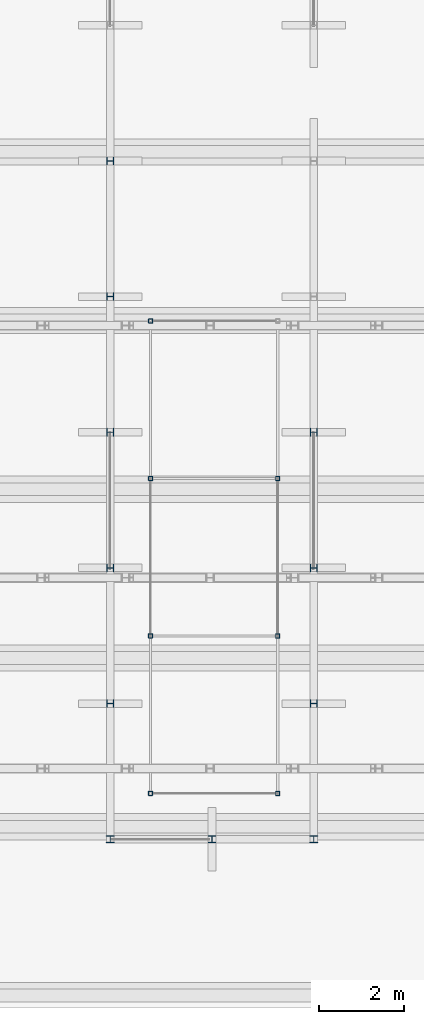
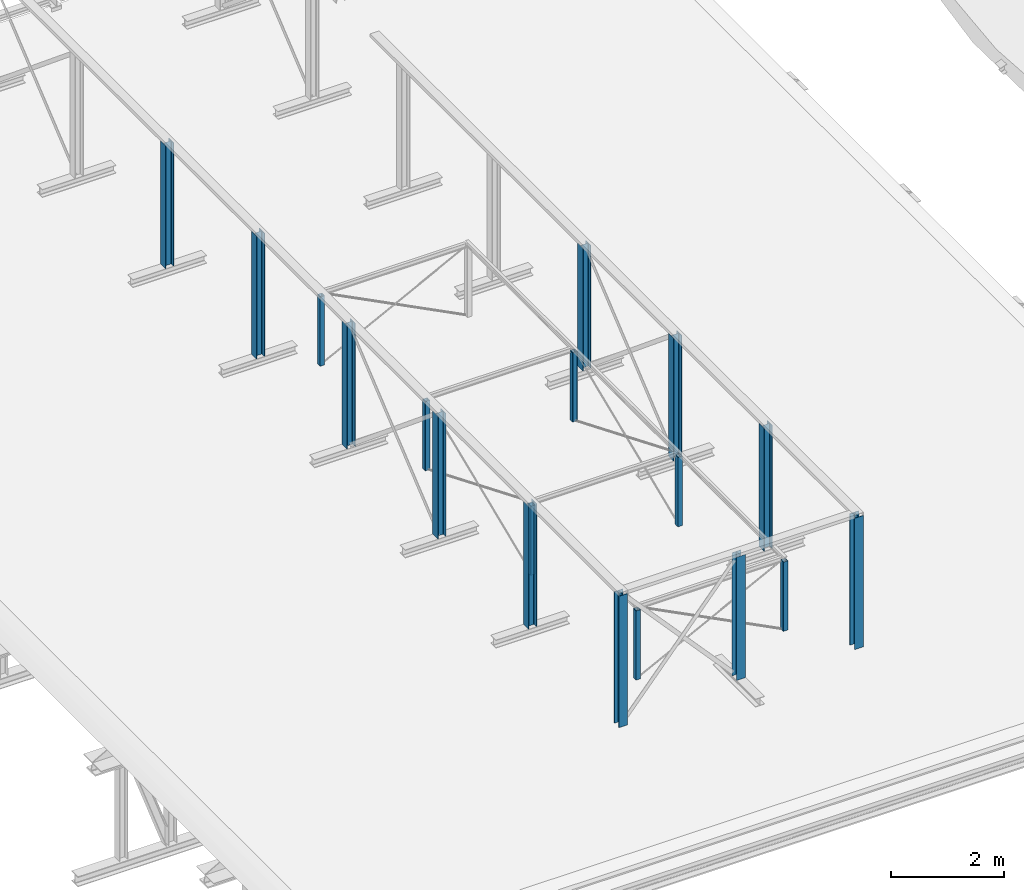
# One storey, part 1 of 50: 18 columns.
"""IFC2X3 building model written with IfcOpenShell, lengths in millimetres."""

from ifc_helpers import new_model, entity, si_unit, converted_unit, derived_unit, direction, frame, frame_2d, origin, place, context, subcontext, project, spatial, polyline, circle_curve, parameter, trimmed, segment, composite_curve, outline, extrude, source, transform, mapped, material, type_object, type_shapes, element, save


model = new_model("IFC2X3")

# Units and contexts
model_context = context("Model", 3, precision=0.01, world=origin(), true_north=direction((6.12303176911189e-17, 1.0)))
body_context = subcontext(model_context, "Body", "Model", "MODEL_VIEW")
ifc_project = project(units=[si_unit("LENGTHUNIT", "METRE", prefix="MILLI"), si_unit("AREAUNIT", "SQUARE_METRE", prefix="MILLI"), si_unit("VOLUMEUNIT", "CUBIC_METRE"), converted_unit("PLANEANGLEUNIT", "DEGREE", entity("IfcRatioMeasure", 0.0174532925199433), si_unit("PLANEANGLEUNIT", "RADIAN"), dimensions=[0, 0, 0, 0, 0, 0, 0]), si_unit("MASSUNIT", "GRAM", prefix="KILO"), derived_unit("MASSDENSITYUNIT", [(si_unit("MASSUNIT", "GRAM", prefix="KILO"), 1), (si_unit("LENGTHUNIT", "METRE"), -3)]), derived_unit("MOMENTOFINERTIAUNIT", [(si_unit("LENGTHUNIT", "METRE"), 4)]), si_unit("TIMEUNIT", "SECOND"), si_unit("FREQUENCYUNIT", "HERTZ"), si_unit("THERMODYNAMICTEMPERATUREUNIT", "DEGREE_CELSIUS"), derived_unit("THERMALTRANSMITTANCEUNIT", [(si_unit("MASSUNIT", "GRAM", prefix="KILO"), 1), (si_unit("THERMODYNAMICTEMPERATUREUNIT", "KELVIN"), -1), (si_unit("TIMEUNIT", "SECOND"), -3)]), derived_unit("VOLUMETRICFLOWRATEUNIT", [(si_unit("LENGTHUNIT", "METRE"), 3), (si_unit("TIMEUNIT", "SECOND"), -1)]), si_unit("ELECTRICCURRENTUNIT", "AMPERE"), si_unit("ELECTRICVOLTAGEUNIT", "VOLT"), si_unit("POWERUNIT", "WATT"), si_unit("FORCEUNIT", "NEWTON", prefix="KILO"), si_unit("ILLUMINANCEUNIT", "LUX"), si_unit("LUMINOUSFLUXUNIT", "LUMEN"), si_unit("LUMINOUSINTENSITYUNIT", "CANDELA"), derived_unit("USERDEFINED", [(si_unit("MASSUNIT", "GRAM", prefix="KILO"), -1), (si_unit("LENGTHUNIT", "METRE"), -2), (si_unit("TIMEUNIT", "SECOND"), 3), (si_unit("LUMINOUSFLUXUNIT", "LUMEN"), 1)]), derived_unit("LINEARVELOCITYUNIT", [(si_unit("LENGTHUNIT", "METRE"), 1), (si_unit("TIMEUNIT", "SECOND"), -1)]), si_unit("PRESSUREUNIT", "PASCAL"), derived_unit("USERDEFINED", [(si_unit("LENGTHUNIT", "METRE"), -2), (si_unit("MASSUNIT", "GRAM", prefix="KILO"), 1), (si_unit("TIMEUNIT", "SECOND"), -2)]), derived_unit("LINEARFORCEUNIT", [(si_unit("MASSUNIT", "GRAM", prefix="KILO"), 1), (si_unit("LENGTHUNIT", "METRE"), 1), (si_unit("TIMEUNIT", "SECOND"), -2), (si_unit("LENGTHUNIT", "METRE"), -1)]), derived_unit("PLANARFORCEUNIT", [(si_unit("MASSUNIT", "GRAM", prefix="KILO"), 1), (si_unit("LENGTHUNIT", "METRE"), 1), (si_unit("TIMEUNIT", "SECOND"), -2), (si_unit("LENGTHUNIT", "METRE"), -2)])], contexts=[model_context])

# Site, building, storey
site_placement = place(None, origin())
site = spatial("IfcSite", under=ifc_project, at=site_placement, Name="Theater aan de Parade", CompositionType="ELEMENT")
building_placement = place(site_placement, origin())
building = spatial("IfcBuilding", under=site, at=building_placement, Name="Theater aan de Parade", CompositionType="ELEMENT")
storey_placement = place(building_placement, frame((0.0, 0.0, 15820.0)))
storey = spatial("IfcBuildingStorey", under=building, at=storey_placement, Name="04 vierde verdieping", CompositionType="ELEMENT", Elevation=15820.0)

# Columns
ifc_material = material(Name="00_PBT_MAT_staal_S355")
column_type_1 = type_object("IfcColumnType", Name="28_PBT_SC_staal_koker:S355_K100x100x8", PredefinedType="COLUMN", material=ifc_material)
shared_shape_1 = source(origin(), body_context, "Body", "SweptSolid", [
    extrude(outline(composite_curve([segment(trimmed(circle_curve(frame_2d((-40.55, -40.55), x_axis=(1.0, 0.0)), 9.45), [parameter(180.0)], [parameter(270.0)], True, "PARAMETER"), True, "CONTINUOUS"), segment(polyline([(-40.55, -50.0), (40.55, -50.0)]), True, "CONTINUOUS"), segment(trimmed(circle_curve(frame_2d((40.55, -40.55), x_axis=(1.0, 0.0)), 9.45), [parameter(270.0)], [parameter(5.08888749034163e-14)], True, "PARAMETER"), True, "CONTINUOUS"), segment(polyline([(50.0, -40.55), (50.0, 40.55)]), True, "CONTINUOUS"), segment(trimmed(circle_curve(frame_2d((40.55, 40.55), x_axis=(1.0, 0.0)), 9.45), [parameter(3.56222124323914e-13)], [parameter(90.0000000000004)], True, "PARAMETER"), True, "CONTINUOUS"), segment(polyline([(40.55, 50.0), (-40.55, 50.0)]), True, "CONTINUOUS"), segment(trimmed(circle_curve(frame_2d((-40.55, 40.55), x_axis=(1.0, 0.0)), 9.45), [parameter(90.0)], [parameter(180.0)], True, "PARAMETER"), True, "CONTINUOUS"), segment(polyline([(-50.0, 40.55), (-50.0, -40.55)]), True, "CONTINUOUS")], self_intersect=False), holes=[composite_curve([segment(trimmed(circle_curve(frame_2d((34.0, 34.0), x_axis=(1.0, 0.0)), 8.0), [parameter(0.0)], [parameter(90.0000000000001)], True, "PARAMETER"), False, "CONTINUOUS"), segment(polyline([(42.0, 34.0), (42.0, -34.0)]), True, "CONTINUOUS"), segment(trimmed(circle_curve(frame_2d((34.0, -34.0), x_axis=(1.0, 0.0)), 8.0), [parameter(270.0)], [parameter(360.0)], True, "PARAMETER"), False, "CONTINUOUS"), segment(polyline([(34.0, -42.0), (-34.0, -42.0)]), True, "CONTINUOUS"), segment(trimmed(circle_curve(frame_2d((-34.0, -34.0), x_axis=(1.0, 0.0)), 8.0), [parameter(180.0)], [parameter(270.0)], True, "PARAMETER"), False, "CONTINUOUS"), segment(polyline([(-42.0, -34.0), (-42.0, 34.0)]), True, "CONTINUOUS"), segment(trimmed(circle_curve(frame_2d((-34.0, 34.0), x_axis=(1.0, 0.0)), 8.0), [parameter(89.9999999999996)], [parameter(180.0)], True, "PARAMETER"), False, "CONTINUOUS"), segment(polyline([(-34.0, 42.0), (34.0, 42.0)]), True, "CONTINUOUS")], self_intersect=False)]), frame((0.0, 0.0, 15910.0), z_axis=(0.0, 0.0, 1.0), x_axis=(-1.0, 0.0, 0.0)), (0.0, 0.0, 1.0), 1490.0),
])
type_shapes(column_type_1, [shared_shape_1])
for number, where, z_axis, x_axis in (
    (1, (24703.8569986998, 18478.8337248, -15820.0), (0.0, 0.0, 1.0), (-1.0, 0.0, 0.0)),
    (2, (27703.8569986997, 18478.8337248, -15820.0), (0.0, 0.0, 1.0), (-1.0, 0.0, 0.0)),
    (3, (24703.8569986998, 22193.8337248, -15820.0), (0.0, 0.0, 1.0), (-1.0, 0.0, 0.0)),
    (4, (27703.8569986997, 22193.8337248, -15820.0), (0.0, 0.0, 1.0), (-1.0, 0.0, 0.0)),
    (5, (24703.8569986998, 25908.8337248, -15820.0), (0.0, 0.0, 1.0), (-1.0, 0.0, 0.0)),
    (6, (27703.8569986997, 25908.8337248, -15820.0), (0.0, 0.0, 1.0), (-1.0, 0.0, 0.0)),
    (7, (24703.8569986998, 29623.8337248, -15820.0), (0.0, 0.0, 1.0), (-1.0, 0.0, 0.0)),
):
    element("IfcColumn", number, at=place(storey_placement, frame(where, z_axis=z_axis, x_axis=x_axis)), inside=storey, type_object=column_type_1, material=ifc_material, Name="28_PBT_SC_staal_koker:S355_K100x100x8", ObjectType="28_PBT_SC_staal_koker:S355_K100x100x8", context=body_context, shape_type="MappedRepresentation", body=[
        mapped(shared_shape_1, transform((0.0, 0.0, 0.0), scale=1.0)),
    ])
column_type_2 = type_object("IfcColumnType", Name="28_PBT_SC_staal_H-profiel:S355_HE180A", PredefinedType="COLUMN", material=ifc_material)
shared_shape_2 = source(origin(), body_context, "Body", "SweptSolid", [
    extrude(outline(composite_curve([segment(polyline([(76.0, -90.0), (85.5000000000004, -90.0)]), True, "CONTINUOUS"), segment(polyline([(85.5000000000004, -90.0), (85.5000000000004, 90.0)]), True, "CONTINUOUS"), segment(polyline([(85.5000000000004, 90.0), (76.0, 90.0)]), True, "CONTINUOUS"), segment(polyline([(76.0, 90.0), (76.0, 18.0)]), True, "CONTINUOUS"), segment(trimmed(circle_curve(frame_2d((61.0, 18.0), x_axis=(1.0, 0.0)), 15.0), [parameter(270.0)], [parameter(0.0)], True, "PARAMETER"), False, "CONTINUOUS"), segment(polyline([(61.0, 3.0), (-61.0, 3.0)]), True, "CONTINUOUS"), segment(trimmed(circle_curve(frame_2d((-61.0, 18.0), x_axis=(0.0, -1.0)), 15.0), [parameter(270.0)], [parameter(0.0)], True, "PARAMETER"), False, "CONTINUOUS"), segment(polyline([(-76.0, 18.0), (-76.0, 90.0)]), True, "CONTINUOUS"), segment(polyline([(-76.0, 90.0), (-85.4999999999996, 90.0)]), True, "CONTINUOUS"), segment(polyline([(-85.4999999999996, 90.0), (-85.4999999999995, -90.0)]), True, "CONTINUOUS"), segment(polyline([(-85.4999999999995, -90.0), (-76.0, -90.0)]), True, "CONTINUOUS"), segment(polyline([(-76.0, -90.0), (-76.0, -18.0)]), True, "CONTINUOUS"), segment(trimmed(circle_curve(frame_2d((-61.0, -18.0), x_axis=(-1.0, 0.0)), 15.0), [parameter(270.0)], [parameter(0.0)], True, "PARAMETER"), False, "CONTINUOUS"), segment(polyline([(-61.0, -3.0), (61.0, -3.0)]), True, "CONTINUOUS"), segment(trimmed(circle_curve(frame_2d((61.0, -18.0), x_axis=(0.0, 1.0)), 15.0), [parameter(270.0)], [parameter(0.0)], True, "PARAMETER"), False, "CONTINUOUS"), segment(polyline([(76.0, -18.0), (76.0, -90.0)]), True, "CONTINUOUS")], self_intersect=False)), frame((0.0, 0.0, 15910.0), z_axis=(0.0, 0.0, 1.0), x_axis=(0.0, -1.0, 0.0)), (0.0, 0.0, 1.0), 2830.00000000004),
])
type_shapes(column_type_2, [shared_shape_2])
for number, where, z_axis, x_axis in (
    (8, (23753.8569986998, 17398.8337248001, -15820.0), (0.0, 0.0, 1.0), (-1.0, 0.0, 0.0)),
    (9, (28553.8569986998, 17398.8337248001, -15820.0), (0.0, 0.0, 1.0), (-1.0, 0.0, 0.0)),
):
    element("IfcColumn", number, at=place(storey_placement, frame(where, z_axis=z_axis, x_axis=x_axis)), inside=storey, type_object=column_type_2, material=ifc_material, Name="28_PBT_SC_staal_H-profiel:S355_HE180A", ObjectType="28_PBT_SC_staal_H-profiel:S355_HE180A", context=body_context, shape_type="MappedRepresentation", body=[
        mapped(shared_shape_2, transform((0.0, 0.0, 0.0), scale=1.0)),
    ])
column_type_3 = type_object("IfcColumnType", Name="28_PBT_SC_staal_H-profiel:S355_HE180A", PredefinedType="COLUMN", material=ifc_material)
shared_shape_3 = source(origin(), body_context, "Body", "SweptSolid", [
    extrude(outline(composite_curve([segment(polyline([(76.0, -90.0), (85.5000000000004, -90.0)]), True, "CONTINUOUS"), segment(polyline([(85.5000000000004, -90.0), (85.5000000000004, 90.0)]), True, "CONTINUOUS"), segment(polyline([(85.5000000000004, 90.0), (76.0, 90.0)]), True, "CONTINUOUS"), segment(polyline([(76.0, 90.0), (76.0, 18.0)]), True, "CONTINUOUS"), segment(trimmed(circle_curve(frame_2d((61.0, 18.0), x_axis=(1.0, 0.0)), 15.0), [parameter(270.0)], [parameter(0.0)], True, "PARAMETER"), False, "CONTINUOUS"), segment(polyline([(61.0, 3.0), (-61.0, 3.0)]), True, "CONTINUOUS"), segment(trimmed(circle_curve(frame_2d((-61.0, 18.0), x_axis=(0.0, -1.0)), 15.0), [parameter(270.0)], [parameter(0.0)], True, "PARAMETER"), False, "CONTINUOUS"), segment(polyline([(-76.0, 18.0), (-76.0, 90.0)]), True, "CONTINUOUS"), segment(polyline([(-76.0, 90.0), (-85.4999999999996, 90.0)]), True, "CONTINUOUS"), segment(polyline([(-85.4999999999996, 90.0), (-85.4999999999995, -90.0)]), True, "CONTINUOUS"), segment(polyline([(-85.4999999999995, -90.0), (-76.0, -90.0)]), True, "CONTINUOUS"), segment(polyline([(-76.0, -90.0), (-76.0, -18.0)]), True, "CONTINUOUS"), segment(trimmed(circle_curve(frame_2d((-61.0, -18.0), x_axis=(-1.0, 0.0)), 15.0), [parameter(270.0)], [parameter(0.0)], True, "PARAMETER"), False, "CONTINUOUS"), segment(polyline([(-61.0, -3.0), (61.0, -3.0)]), True, "CONTINUOUS"), segment(trimmed(circle_curve(frame_2d((61.0, -18.0), x_axis=(0.0, 1.0)), 15.0), [parameter(270.0)], [parameter(0.0)], True, "PARAMETER"), False, "CONTINUOUS"), segment(polyline([(76.0, -18.0), (76.0, -90.0)]), True, "CONTINUOUS")], self_intersect=False)), frame((0.0, 0.0, 16090.0), z_axis=(0.0, 0.0, 1.0), x_axis=(0.0, -1.0, 0.0)), (0.0, 0.0, 1.0), 2650.00000000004),
])
type_shapes(column_type_3, [shared_shape_3])
for number, where, z_axis, x_axis in (
    (10, (26153.8569986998, 17398.8337248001, -15820.0), (0.0, 0.0, 1.0), (-1.0, 0.0, 0.0)),
    (11, (23753.8569986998, 20598.8337248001, -15820.0), (0.0, 0.0, 1.0), (0.0, -1.0, 0.0)),
    (12, (28553.8569986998, 20598.8337248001, -15820.0), (0.0, 0.0, 1.0), (0.0, -1.0, 0.0)),
    (13, (23753.8569986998, 23798.8337248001, -15820.0), (0.0, 0.0, 1.0), (0.0, -1.0, 0.0)),
    (14, (28553.8569986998, 23798.8337248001, -15820.0), (0.0, 0.0, 1.0), (0.0, -1.0, 0.0)),
    (15, (23753.8569986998, 26998.8337248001, -15820.0), (0.0, 0.0, 1.0), (0.0, -1.0, 0.0)),
    (16, (28553.8569986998, 26998.8337248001, -15820.0), (0.0, 0.0, 1.0), (0.0, -1.0, 0.0)),
    (17, (23753.8569986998, 30198.8337248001, -15820.0), (0.0, 0.0, 1.0), (0.0, -1.0, 0.0)),
    (18, (23753.8569986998, 33398.8337248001, -15820.0), (0.0, 0.0, 1.0), (0.0, -1.0, 0.0)),
):
    element("IfcColumn", number, at=place(storey_placement, frame(where, z_axis=z_axis, x_axis=x_axis)), inside=storey, type_object=column_type_3, material=ifc_material, Name="28_PBT_SC_staal_H-profiel:S355_HE180A", ObjectType="28_PBT_SC_staal_H-profiel:S355_HE180A", context=body_context, shape_type="MappedRepresentation", body=[
        mapped(shared_shape_3, transform((0.0, 0.0, 0.0), scale=1.0)),
    ])

save(model, "model.ifc")
